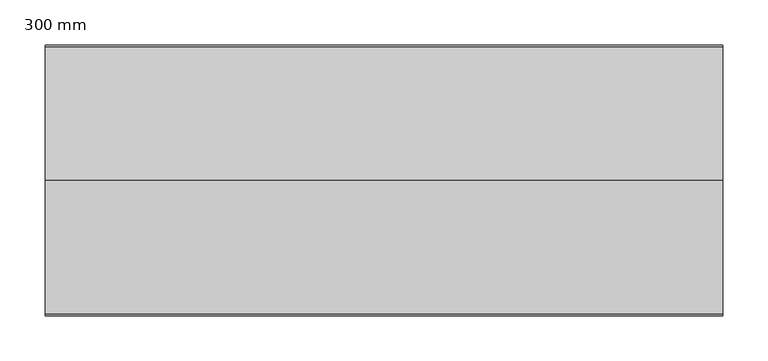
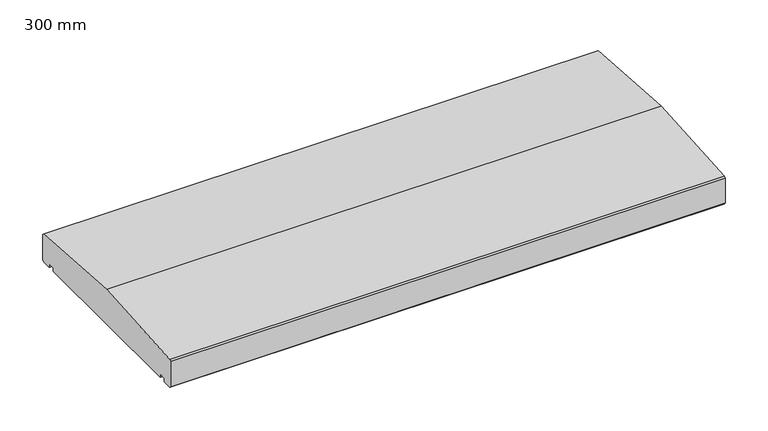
"""IFC4 building model written with IfcOpenShell, lengths in millimetres: proxy geometry, 400_35_NS_afdekker_tweezijdig_afwaterend : 300 mm."""

import ifcopenshell
import ifcopenshell.guid

model = None  # the IFC model being written
_history = None  # IfcOwnerHistory: only IFC2X3 demands one
_inside = {}  # id of a spatial element -> (the spatial element, [elements in it])
_under = {}  # id of a project, library or spatial element -> (it, [spatial elements below it])
_declared = {}  # id of a project -> (the project, [libraries it declares])
_typed = {}  # id of a type object -> (the type object, [elements of that type])
_made_of = {}  # id of a material, layer set ... -> (it, [elements and type objects made of it])


def new_model(schema):
    """Start an empty IFC model of exactly this schema.

    Asked for "IFC4X3", IfcOpenShell would pick the latest addendum, in which some entities
    have other attributes; the version numbers below select the first issue.
    IFC2X3 requires an IfcOwnerHistory on every rooted entity: one is made here for all.
    """
    global model, _history
    if schema == "IFC4X3":
        model = ifcopenshell.file(schema_version=(4, 3, 0, 0))
    else:
        model = ifcopenshell.file(schema=schema)
    _inside.clear()
    _under.clear()
    _declared.clear()
    _typed.clear()
    _made_of.clear()
    _history = None
    if model.schema == "IFC2X3":
        org = make("IfcOrganization", Name="unknown")
        user = make(
            "IfcPersonAndOrganization",
            ThePerson=make("IfcPerson", FamilyName="unknown"),
            TheOrganization=org,
        )
        app = make(
            "IfcApplication",
            ApplicationDeveloper=org,
            Version="unknown",
            ApplicationFullName="unknown",
            ApplicationIdentifier="unknown",
        )
        _history = make(
            "IfcOwnerHistory",
            OwningUser=user,
            OwningApplication=app,
            ChangeAction="ADDED",
            CreationDate=0,
        )
    return model


def make(cls, **values):
    """One entity of the class cls with the attributes given. An attribute that is None is left unset."""
    return model.create_entity(
        cls, **{name: value for name, value in values.items() if value is not None}
    )


def rooted(cls, **values):
    """An entity with a GlobalId (a new one), such as an element, a storey or a relation."""
    return make(cls, GlobalId=ifcopenshell.guid.new(), OwnerHistory=_history, **values)


def si_unit(unit_type, name, prefix=None):
    """IfcSIUnit, for example si_unit("LENGTHUNIT", "METRE", prefix="MILLI")."""
    return make("IfcSIUnit", UnitType=unit_type, Prefix=prefix, Name=name)


def assignment(units):
    """IfcUnitAssignment: the units of a project."""
    return None if units is None else make("IfcUnitAssignment", Units=units)


def point(xyz):
    """IfcCartesianPoint."""
    return None if xyz is None else make("IfcCartesianPoint", Coordinates=xyz)


def direction(xyz):
    """IfcDirection."""
    return None if xyz is None else make("IfcDirection", DirectionRatios=xyz)


def frame(location, z_axis=None, x_axis=None):
    """IfcAxis2Placement3D, a coordinate frame: its origin and axes. An axis left out is left unset."""
    return make(
        "IfcAxis2Placement3D",
        Location=point(location),
        Axis=direction(z_axis),
        RefDirection=direction(x_axis),
    )


def origin():
    """The frame at (0, 0, 0) with its axes left unset."""
    return frame((0.0, 0.0, 0.0))


def place(relative_to, where):
    """IfcLocalPlacement: puts the frame where relative to a parent placement (None: the world)."""
    return make(
        "IfcLocalPlacement", PlacementRelTo=relative_to, RelativePlacement=where
    )


def context(
    kind, dimensions, precision=None, world=None, true_north=None, identifier=None
):
    """IfcGeometricRepresentationContext, for example the 3D "Model" context."""
    return make(
        "IfcGeometricRepresentationContext",
        ContextIdentifier=identifier,
        ContextType=kind,
        CoordinateSpaceDimension=dimensions,
        Precision=precision,
        WorldCoordinateSystem=world,
        TrueNorth=true_north,
    )


def project(units=None, contexts=None):
    """IfcProject with its units and contexts."""
    return rooted(
        "IfcProject",
        Name="project",
        RepresentationContexts=contexts,
        UnitsInContext=assignment(units),
    )


def spatial(cls, under=None, at=None, **own):
    """A site, building, storey or space (cls), placed at a placement, below another one or the project."""
    s = rooted(cls, ObjectPlacement=at, **own)
    if under is not None:
        _under.setdefault(under.id(), (under, []))[1].append(s)
    return s


def polyline(points):
    """IfcPolyline through the points."""
    return make("IfcPolyline", Points=[point(p) for p in points])


def outline(outer, holes=None, kind="AREA"):
    """IfcArbitraryClosedProfileDef: a profile drawn as a closed curve; with holes, ...WithVoids."""
    if holes is None:
        return make("IfcArbitraryClosedProfileDef", ProfileType=kind, OuterCurve=outer)
    return make(
        "IfcArbitraryProfileDefWithVoids",
        ProfileType=kind,
        OuterCurve=outer,
        InnerCurves=holes,
    )


def extrude(swept, where, along, depth):
    """IfcExtrudedAreaSolid: the profile swept, set in the frame where, extruded along a direction by depth."""
    return make(
        "IfcExtrudedAreaSolid",
        SweptArea=swept,
        Position=where,
        ExtrudedDirection=direction(along),
        Depth=depth,
    )


def shape(context_of_items, identifier, shape_type, items):
    """IfcShapeRepresentation: the items that make up one representation, for example the "Body"."""
    return make(
        "IfcShapeRepresentation",
        ContextOfItems=context_of_items,
        RepresentationIdentifier=identifier,
        RepresentationType=shape_type,
        Items=items,
    )


def source(mapping_origin, context_of_items, identifier, shape_type, items):
    """IfcRepresentationMap: a shape defined once, which mapped items show again and again."""
    return make(
        "IfcRepresentationMap",
        MappingOrigin=mapping_origin,
        MappedRepresentation=shape(context_of_items, identifier, shape_type, items),
    )


def transform(
    local_origin,
    x_axis=None,
    y_axis=None,
    z_axis=None,
    scale=None,
    scale2=None,
    scale3=None,
    uniform=True,
):
    """IfcCartesianTransformationOperator3D, or its non-uniform kind. x_axis, y_axis, z_axis: its Axis1, 2, 3."""
    if uniform:
        return make(
            "IfcCartesianTransformationOperator3D",
            Axis1=direction(x_axis),
            Axis2=direction(y_axis),
            LocalOrigin=point(local_origin),
            Scale=scale,
            Axis3=direction(z_axis),
        )
    return make(
        "IfcCartesianTransformationOperator3DnonUniform",
        Axis1=direction(x_axis),
        Axis2=direction(y_axis),
        LocalOrigin=point(local_origin),
        Scale=scale,
        Axis3=direction(z_axis),
        Scale2=scale2,
        Scale3=scale3,
    )


def mapped(mapping_source, mapping_target):
    """IfcMappedItem: shows the shape of a source again, moved by a transform."""
    return make(
        "IfcMappedItem", MappingSource=mapping_source, MappingTarget=mapping_target
    )


def made_of(thing, what):
    """Note that an element or type object is made of a material, layer set ...; save() writes the relation."""
    if what is not None:
        _made_of.setdefault(what.id(), (what, []))[1].append(thing)
    return thing


def element(
    cls,
    number,
    at=None,
    inside=None,
    cuts=None,
    type_object=None,
    material=None,
    context=None,
    identifier="Body",
    shape_type=None,
    held_by="IfcProductDefinitionShape",
    body=None,
    shapes=None,
    **own,
):
    """One element of the class cls, such as IfcWall. Its Tag is "e" and its number.

    at: its placement. inside: the storey or other place that contains it. cuts: it is an
    opening in that element (IfcRelVoidsElement). A single representation is given by context,
    identifier, shape_type and body (its items); several are given by shapes. held_by: the class
    of the entity that holds the representations. save() writes the other relations.
    """
    e = rooted(cls, Tag="e%d" % number, ObjectPlacement=at, **own)
    if body is not None:
        shapes = [shape(context, identifier, shape_type, body)]
    if shapes is not None:
        e.Representation = make(held_by, Representations=shapes)
    if inside is not None:
        _inside.setdefault(inside.id(), (inside, []))[1].append(e)
    if cuts is not None:
        rooted(
            "IfcRelVoidsElement", RelatingBuildingElement=cuts, RelatedOpeningElement=e
        )
    if type_object is not None:
        _typed.setdefault(type_object.id(), (type_object, []))[1].append(e)
    return made_of(e, material)


def aggregate(whole, parts):
    """IfcRelAggregates: a whole, such as a stair, and the parts it consists of."""
    return rooted("IfcRelAggregates", RelatingObject=whole, RelatedObjects=parts)


def save(model, path):
    """Write the relations noted so far, then the file.

    IfcRelAggregates (storeys below a building ...), IfcRelContainedInSpatialStructure (elements
    in a storey), IfcRelDefinesByType, IfcRelAssociatesMaterial and IfcRelDeclares: one each for
    every whole, place, type object, material and project.
    """
    for whole, parts in _under.values():
        aggregate(whole, parts)
    for where, things in _inside.values():
        rooted(
            "IfcRelContainedInSpatialStructure",
            RelatedElements=things,
            RelatingStructure=where,
        )
    for kind, things in _typed.values():
        rooted("IfcRelDefinesByType", RelatedObjects=things, RelatingType=kind)
    for what, things in _made_of.values():
        rooted("IfcRelAssociatesMaterial", RelatedObjects=things, RelatingMaterial=what)
    for by, libraries in _declared.values():
        rooted("IfcRelDeclares", RelatingContext=by, RelatedDefinitions=libraries)
    model.write(path)


def proxy_300_mm_3181e62b(model_context):
    return source(origin(), model_context, "Body", "SweptSolid", [
        extrude(outline(polyline([(300.0, 2.0), (298.0, 0.0), (285.0, 0.0), (285.0, 5.0), (275.0, 5.0), (275.0, 0.0), (25.0, 0.0), (25.0, 5.0), (15.0, 5.0), (15.0, 0.0), (2.0, 0.0), (0.0, 2.0), (0.0, 38.0), (2.0, 40.0), (150.0, 50.0), (298.0, 40.0), (300.0, 38.0), (300.0, 2.0)])), frame((-375.0, 0.0, 0.0), z_axis=(1.0, 0.0, 0.0), x_axis=(0.0, 1.0, 0.0)), (0.0, 0.0, 1.0), 750.0),
    ])


if __name__ == "__main__":
    model = new_model("IFC4")
    model_context = context("Model", 3, world=origin())
    ifc_project = project(units=[si_unit("LENGTHUNIT", "METRE", prefix="MILLI")], contexts=[model_context])
    site = spatial("IfcSite", under=ifc_project)
    building = spatial("IfcBuilding", under=site)
    placement = place(None, origin())
    proxy_300_mm_shape = proxy_300_mm_3181e62b(model_context)
    element("IfcBuildingElementProxy", 1, Name="400_35_NS_afdekker_tweezijdig_afwaterend : 300 mm", ObjectType="400_35_NS_afdekker_tweezijdig_afwaterend : 300 mm", at=placement, inside=building, context=model_context, shape_type="MappedRepresentation", body=[
        mapped(proxy_300_mm_shape, transform((0.0, 0.0, 0.0), x_axis=(1.0, 0.0, 0.0), y_axis=(0.0, 1.0, 0.0), z_axis=(0.0, 0.0, 1.0))),
    ])
    save(model, "model.ifc")
